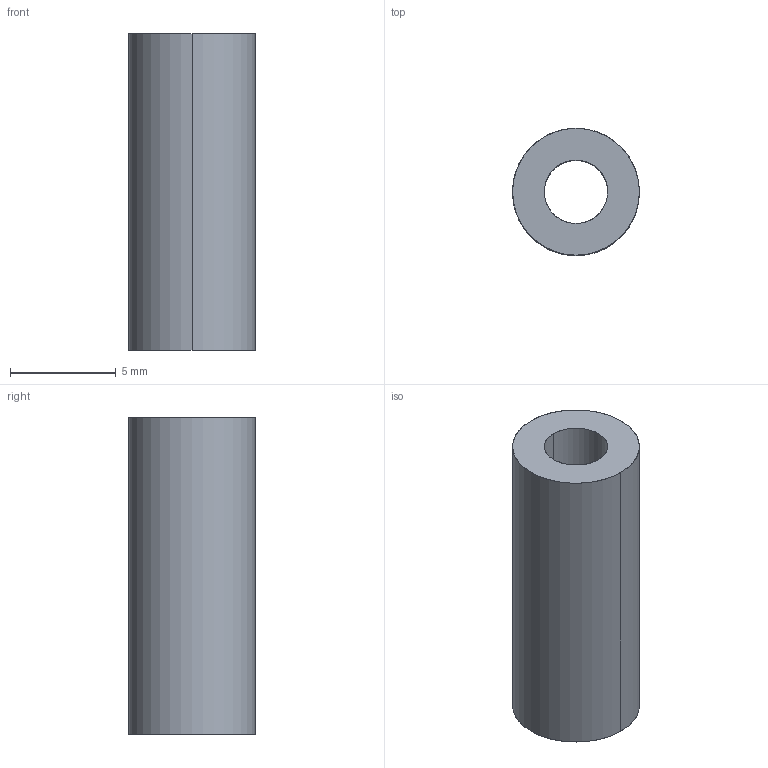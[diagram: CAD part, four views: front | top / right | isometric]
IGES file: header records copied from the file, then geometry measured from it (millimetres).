
Global section: file name: E:\UnigraphicsGraphicData\MISUMI_PRESS-PARTS\IGES\3d_swc6-15_00693_r00.igs; native system: NX V5.0; preprocessor: UGS NX IGES V5.0; author: MISUMI; date: 20110105.163254; units: millimetre
Bounding box: 6 x 6 x 15 mm (x, y, z)
Surface area: 466.7 mm2 (no closed solid volume)
Topology: 0 solids, 0 shells, 6 faces, 48 edges, 48 vertices
Faces by surface type: bspline 6
